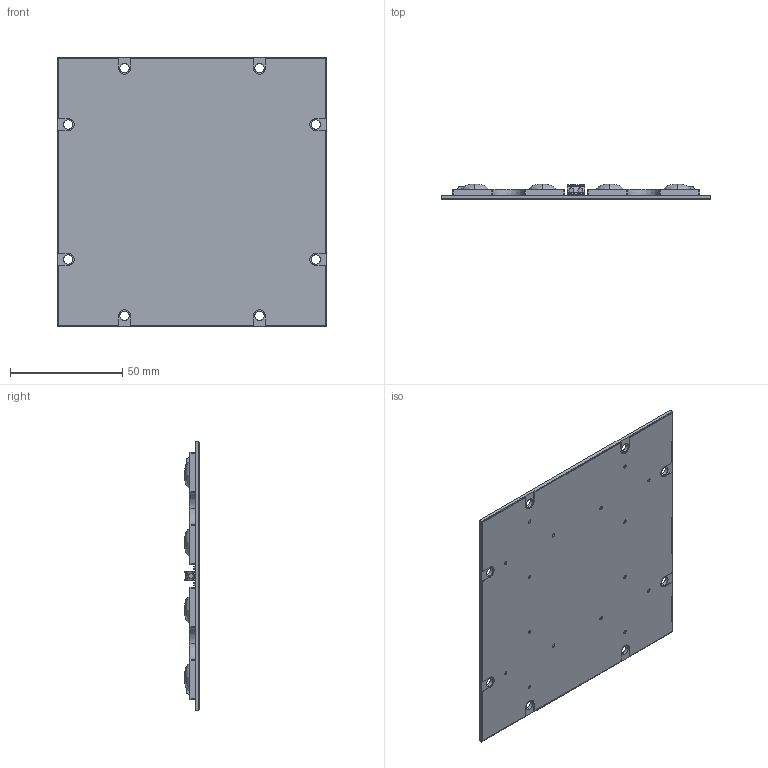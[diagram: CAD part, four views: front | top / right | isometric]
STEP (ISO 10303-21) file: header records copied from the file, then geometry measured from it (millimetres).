
FILE_DESCRIPTION (( 'STEP AP214' ), '1' );
FILE_NAME ('RED-WU-M-475-16-Area.STEP', '2015-08-19T12:45:15', ( 'Admin' ), ( 'Microsoft' ), 'SwSTEP 2.0', 'SolidWorks 2015', '' );
FILE_SCHEMA (( 'AUTOMOTIVE_DESIGN' ));
Length unit declared in the file: millimetre
Products named in the file (11): SUB_SMA SS14L; R0805; Nichia NVSL219A; 001529 PCB-Lötpaste; 001529 PCB-LSL; 001529 PCB-Base; RED-WU-M-475-16-Area; RED-DuOp-Area; 2060-452; 2060-451; 001529 PCB-Thermal-Tape
Assembly tree (45 placements, depth 2):
  RED-WU-M-475-16-Area
    001529 PCB-Base
    001529 PCB-LSL
    001529 PCB-Lötpaste
    Nichia NVSL219A  x16
    R0805  x16
    SUB_SMA SS14L
    001529 PCB-Thermal-Tape
    2060-451  x2
    2060-452  x2
    RED-DuOp-Area  x4
Bounding box: 120 x 6.65 x 120 mm (x, y, z)
Volume: 45354.5 mm3; surface area: 84040.8 mm2
Topology: 288 solids, 288 shells, 8525 faces, 21857 edges, 14474 vertices
Faces by surface type: plane 5400, cylinder 2173, bspline 448, cone 232, torus 232, sphere 40
Entity records: 222328 total; most frequent: CARTESIAN_POINT 51424, ORIENTED_EDGE 27014, DIRECTION 25775, EDGE_CURVE 13507, LINE 9441, VECTOR 9441, VERTEX_POINT 8988, AXIS2_PLACEMENT_3D 8167
